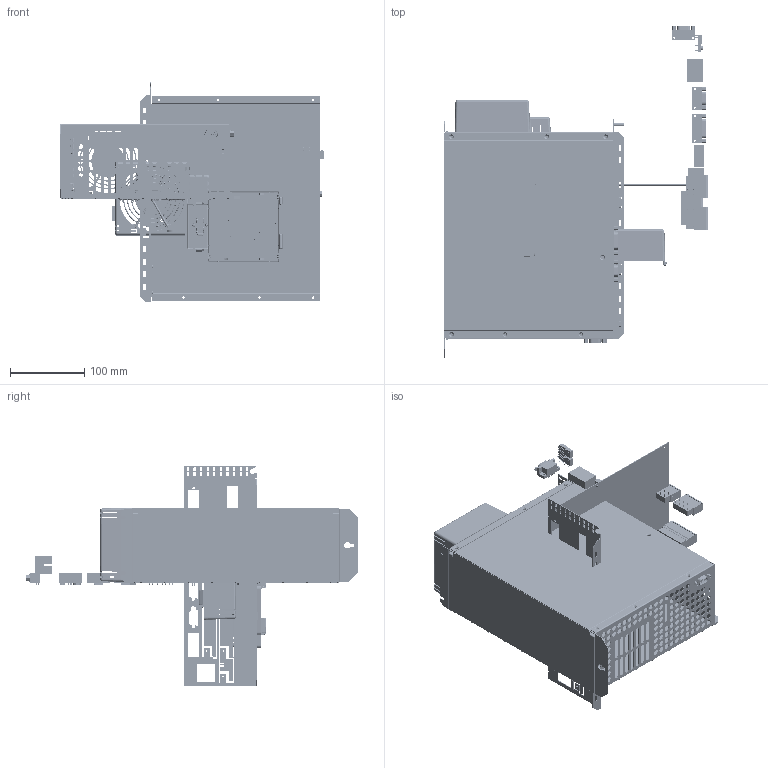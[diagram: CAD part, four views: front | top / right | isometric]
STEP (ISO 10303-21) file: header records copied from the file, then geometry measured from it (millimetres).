
FILE_DESCRIPTION( ( 'Servodrive S724' ), '1' );
FILE_NAME( '//Dussvap01/entwicklung/HW-Entwicklung/Servoverstärker/S700/Projektordner S700/05 Zeichnungen/Mechanik/3D Zeichnungen/A.3.054.4_09_7_web.stp', '27.10.2010', ( 'Lars Lindner' ), ( 'Kollmorgen' ), 'PSStep 10.0', 'Solid Edge V20', ' ' );
FILE_SCHEMA( ( 'AUTOMOTIVE_DESIGN { 1 0 10303 214 1 1 1 1 }' ) );
Length unit declared in the file: millimetre
Products named in the file (23): A.3.054.4_07_04; Assem1; Display; Econopim3; A.3.054.4_08_06; Connect; A.3.054.4_22_4; Mechanik 100mm_5; A.3.055.4_04_01; 3ETL9; 7SEG; PC4_4; FH4  M5-15 (PEM); MCDN1508; DB9F; DB15FH; DB9M; RJL12_001YC1; MCD1503; PC4_6; S700_nameplate
Bounding box: 355.22 x 448.09 x 298 mm (x, y, z)
Volume: 1281752.9 mm3; surface area: 2191477.7 mm2
Topology: 64 solids, 64 shells, 20930 faces, 56108 edges, 35881 vertices
Faces by surface type: plane 13287, cylinder 4797, bspline 1408, cone 598, sphere 497, torus 295, extrusion 40, revolution 8
Full cylindrical faces by diameter (mm): 0.457 x6, 0.7 x48, 0.8 x10, 0.9 x24, 1 x202, 1.2 x18, 1.3 x36, 1.5 x27, 1.6 x12, 2.459 x24, 2.8 x54, 3 x8, 3.2 x47, 3.6 x8, 4 x12, 4.4 x24, 4.5 x24, 4.6 x8, 5 x16, 6 x8, 6.1 x8, 6.3 x7, 8 x796
Entity records: 234438 total; most frequent: CARTESIAN_POINT 57603, ORIENTED_EDGE 27672, DIRECTION 26345, EDGE_CURVE 13836, VECTOR 9755, LINE 9745, VERTEX_POINT 9158, AXIS2_PLACEMENT_3D 8294
